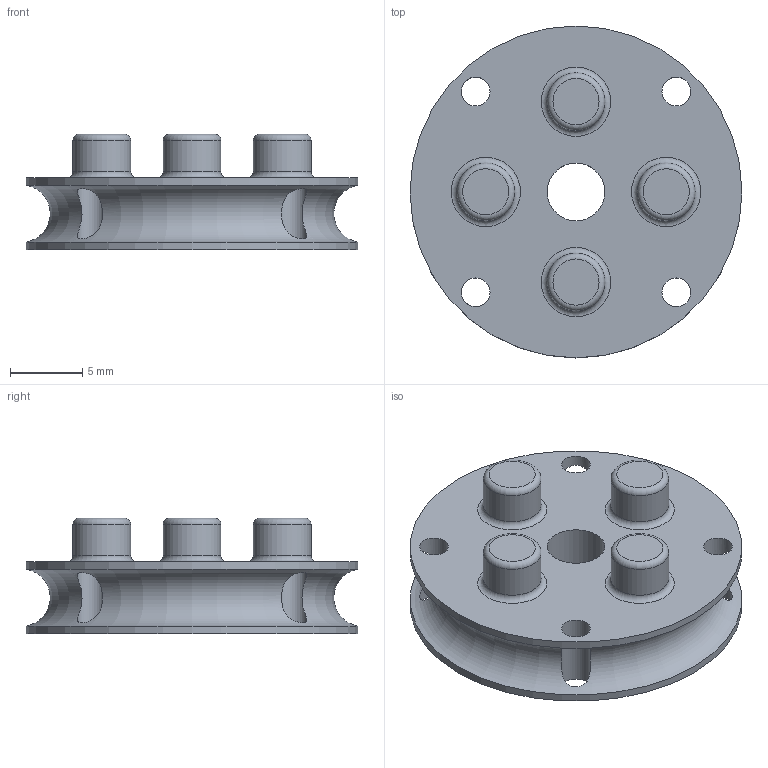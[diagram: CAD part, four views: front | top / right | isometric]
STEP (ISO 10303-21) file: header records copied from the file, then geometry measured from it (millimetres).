
FILE_DESCRIPTION( ('This file contains a STEP AP42 implementation' ,'as created by ZW3D STEP Interface translator.') ,'2;1' );
FILE_NAME( 'UPulley.stp' ,'24 9 3.1333 2', (''), ('ZWCAD Software Co.'), 'Version 1.0', 'ZW3D to STEP translator', '' );
FILE_SCHEMA(('AUTOMOTIVE_DESIGN { 1 0 10303 214 1 1 1 1 }'));
Length unit declared in the file: millimetre
Products named in the file (2): 0; UPulley
Bounding box: 23 x 23 x 8 mm (x, y, z)
Volume: 1780.4 mm3; surface area: 1481.2 mm2
Topology: 1 solids, 1 shells, 26 faces, 62 edges, 40 vertices
Faces by surface type: cylinder 11, torus 9, plane 6
Full cylindrical faces by diameter (mm): 2 x4, 4 x5, 23 x2
Entity records: 946 total; most frequent: CARTESIAN_POINT 219, DIRECTION 153, ORIENTED_EDGE 116, AXIS2_PLACEMENT_3D 70, EDGE_CURVE 58, EDGE_LOOP 46, CIRCLE 43, VERTEX_POINT 36
